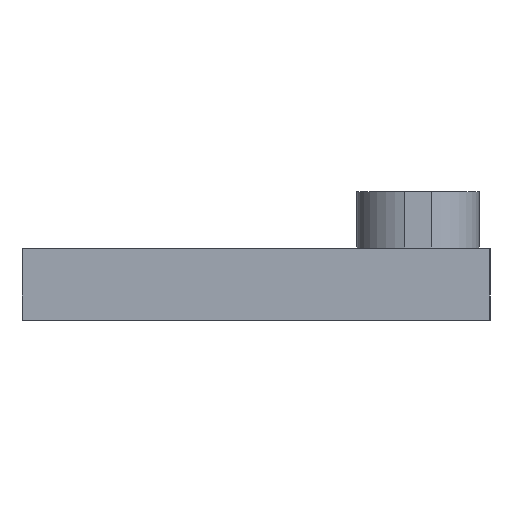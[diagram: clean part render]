
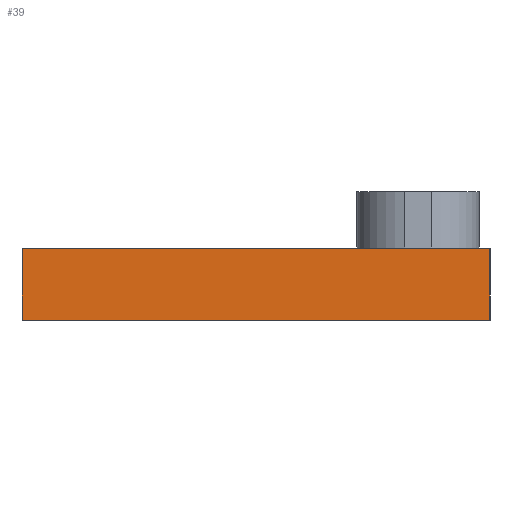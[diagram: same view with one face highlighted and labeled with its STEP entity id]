
A CAD part, left-side view. The second image highlights one B-rep face of the part: STEP entity #39.
In plain terms, the highlighted planar face has unit normal (-1, 0, 0).
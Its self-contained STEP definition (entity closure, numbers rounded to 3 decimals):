
#39 = ADVANCED_FACE('',(#40),#54,.F.);
#40 = FACE_BOUND('',#41,.F.);
#41 = EDGE_LOOP('',(#42,#77,#105,#133));
#42 = ORIENTED_EDGE('',*,*,#43,.F.);
#43 = EDGE_CURVE('',#44,#46,#48,.T.);
#44 = VERTEX_POINT('',#45);
#45 = CARTESIAN_POINT('',(0.,0.,0.));
#46 = VERTEX_POINT('',#47);
#47 = CARTESIAN_POINT('',(0.,0.,8.));
#48 = SURFACE_CURVE('',#49,(#53,#65),.PCURVE_S1.);
#49 = LINE('',#50,#51);
#50 = CARTESIAN_POINT('',(0.,0.,0.));
#51 = VECTOR('',#52,1.);
#52 = DIRECTION('',(0.,0.,1.));
#53 = PCURVE('',#54,#59);
#54 = PLANE('',#55);
#55 = AXIS2_PLACEMENT_3D('',#56,#57,#58);
#56 = CARTESIAN_POINT('',(0.,0.,0.));
#57 = DIRECTION('',(1.,0.,0.));
#58 = DIRECTION('',(0.,0.,1.));
#59 = DEFINITIONAL_REPRESENTATION('',(#60),#64);
#60 = LINE('',#61,#62);
#61 = CARTESIAN_POINT('',(0.,0.));
#62 = VECTOR('',#63,1.);
#63 = DIRECTION('',(1.,0.));
#64 = ( GEOMETRIC_REPRESENTATION_CONTEXT(2) 
PARAMETRIC_REPRESENTATION_CONTEXT() REPRESENTATION_CONTEXT('2D SPACE',''
  ) );
#65 = PCURVE('',#66,#71);
#66 = PLANE('',#67);
#67 = AXIS2_PLACEMENT_3D('',#68,#69,#70);
#68 = CARTESIAN_POINT('',(0.,0.,0.));
#69 = DIRECTION('',(0.,1.,0.));
#70 = DIRECTION('',(0.,0.,1.));
#71 = DEFINITIONAL_REPRESENTATION('',(#72),#76);
#72 = LINE('',#73,#74);
#73 = CARTESIAN_POINT('',(0.,0.));
#74 = VECTOR('',#75,1.);
#75 = DIRECTION('',(1.,0.));
#76 = ( GEOMETRIC_REPRESENTATION_CONTEXT(2) 
PARAMETRIC_REPRESENTATION_CONTEXT() REPRESENTATION_CONTEXT('2D SPACE',''
  ) );
#77 = ORIENTED_EDGE('',*,*,#78,.T.);
#78 = EDGE_CURVE('',#44,#79,#81,.T.);
#79 = VERTEX_POINT('',#80);
#80 = CARTESIAN_POINT('',(0.,52.,0.));
#81 = SURFACE_CURVE('',#82,(#86,#93),.PCURVE_S1.);
#82 = LINE('',#83,#84);
#83 = CARTESIAN_POINT('',(0.,0.,0.));
#84 = VECTOR('',#85,1.);
#85 = DIRECTION('',(0.,1.,0.));
#86 = PCURVE('',#54,#87);
#87 = DEFINITIONAL_REPRESENTATION('',(#88),#92);
#88 = LINE('',#89,#90);
#89 = CARTESIAN_POINT('',(0.,0.));
#90 = VECTOR('',#91,1.);
#91 = DIRECTION('',(0.,-1.));
#92 = ( GEOMETRIC_REPRESENTATION_CONTEXT(2) 
PARAMETRIC_REPRESENTATION_CONTEXT() REPRESENTATION_CONTEXT('2D SPACE',''
  ) );
#93 = PCURVE('',#94,#99);
#94 = PLANE('',#95);
#95 = AXIS2_PLACEMENT_3D('',#96,#97,#98);
#96 = CARTESIAN_POINT('',(0.,0.,0.));
#97 = DIRECTION('',(0.,0.,1.));
#98 = DIRECTION('',(1.,0.,0.));
#99 = DEFINITIONAL_REPRESENTATION('',(#100),#104);
#100 = LINE('',#101,#102);
#101 = CARTESIAN_POINT('',(0.,0.));
#102 = VECTOR('',#103,1.);
#103 = DIRECTION('',(0.,1.));
#104 = ( GEOMETRIC_REPRESENTATION_CONTEXT(2) 
PARAMETRIC_REPRESENTATION_CONTEXT() REPRESENTATION_CONTEXT('2D SPACE',''
  ) );
#105 = ORIENTED_EDGE('',*,*,#106,.T.);
#106 = EDGE_CURVE('',#79,#107,#109,.T.);
#107 = VERTEX_POINT('',#108);
#108 = CARTESIAN_POINT('',(0.,52.,8.));
#109 = SURFACE_CURVE('',#110,(#114,#121),.PCURVE_S1.);
#110 = LINE('',#111,#112);
#111 = CARTESIAN_POINT('',(0.,52.,0.));
#112 = VECTOR('',#113,1.);
#113 = DIRECTION('',(0.,0.,1.));
#114 = PCURVE('',#54,#115);
#115 = DEFINITIONAL_REPRESENTATION('',(#116),#120);
#116 = LINE('',#117,#118);
#117 = CARTESIAN_POINT('',(0.,-52.));
#118 = VECTOR('',#119,1.);
#119 = DIRECTION('',(1.,0.));
#120 = ( GEOMETRIC_REPRESENTATION_CONTEXT(2) 
PARAMETRIC_REPRESENTATION_CONTEXT() REPRESENTATION_CONTEXT('2D SPACE',''
  ) );
#121 = PCURVE('',#122,#127);
#122 = PLANE('',#123);
#123 = AXIS2_PLACEMENT_3D('',#124,#125,#126);
#124 = CARTESIAN_POINT('',(0.,52.,0.));
#125 = DIRECTION('',(0.,1.,0.));
#126 = DIRECTION('',(0.,0.,1.));
#127 = DEFINITIONAL_REPRESENTATION('',(#128),#132);
#128 = LINE('',#129,#130);
#129 = CARTESIAN_POINT('',(0.,0.));
#130 = VECTOR('',#131,1.);
#131 = DIRECTION('',(1.,0.));
#132 = ( GEOMETRIC_REPRESENTATION_CONTEXT(2) 
PARAMETRIC_REPRESENTATION_CONTEXT() REPRESENTATION_CONTEXT('2D SPACE',''
  ) );
#133 = ORIENTED_EDGE('',*,*,#134,.F.);
#134 = EDGE_CURVE('',#46,#107,#135,.T.);
#135 = SURFACE_CURVE('',#136,(#140,#147),.PCURVE_S1.);
#136 = LINE('',#137,#138);
#137 = CARTESIAN_POINT('',(0.,0.,8.));
#138 = VECTOR('',#139,1.);
#139 = DIRECTION('',(0.,1.,0.));
#140 = PCURVE('',#54,#141);
#141 = DEFINITIONAL_REPRESENTATION('',(#142),#146);
#142 = LINE('',#143,#144);
#143 = CARTESIAN_POINT('',(8.,0.));
#144 = VECTOR('',#145,1.);
#145 = DIRECTION('',(0.,-1.));
#146 = ( GEOMETRIC_REPRESENTATION_CONTEXT(2) 
PARAMETRIC_REPRESENTATION_CONTEXT() REPRESENTATION_CONTEXT('2D SPACE',''
  ) );
#147 = PCURVE('',#148,#153);
#148 = PLANE('',#149);
#149 = AXIS2_PLACEMENT_3D('',#150,#151,#152);
#150 = CARTESIAN_POINT('',(0.,0.,8.));
#151 = DIRECTION('',(0.,0.,1.));
#152 = DIRECTION('',(1.,0.,0.));
#153 = DEFINITIONAL_REPRESENTATION('',(#154),#158);
#154 = LINE('',#155,#156);
#155 = CARTESIAN_POINT('',(0.,0.));
#156 = VECTOR('',#157,1.);
#157 = DIRECTION('',(0.,1.));
#158 = ( GEOMETRIC_REPRESENTATION_CONTEXT(2) 
PARAMETRIC_REPRESENTATION_CONTEXT() REPRESENTATION_CONTEXT('2D SPACE',''
  ) );
